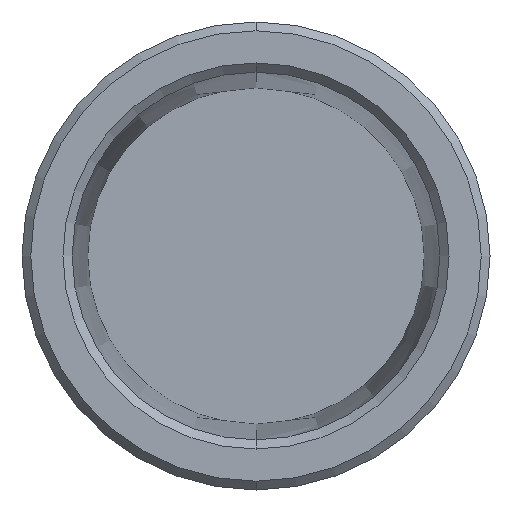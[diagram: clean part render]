
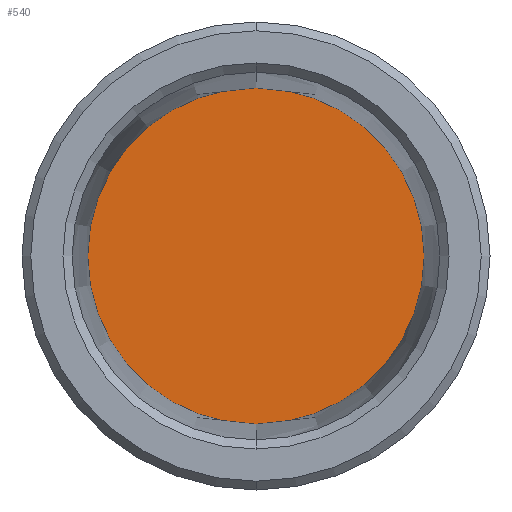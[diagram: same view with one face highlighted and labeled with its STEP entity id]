
A CAD part, front view. The second image highlights one B-rep face of the part: STEP entity #540.
In plain terms, the highlighted planar face has unit normal (0, -1, 0).
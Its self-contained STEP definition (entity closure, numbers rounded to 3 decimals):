
#49 = ORIENTED_EDGE ( 'NONE', *, *, #133, .T. ) ;
#53 = AXIS2_PLACEMENT_3D ( 'NONE', #591, #703, #304 ) ;
#85 = CARTESIAN_POINT ( 'NONE',  ( 0., 11., -5.75 ) ) ;
#133 = EDGE_CURVE ( 'NONE', #588, #604, #574, .T. ) ;
#149 = AXIS2_PLACEMENT_3D ( 'NONE', #681, #331, #335 ) ;
#175 = EDGE_CURVE ( 'NONE', #604, #588, #451, .T. ) ;
#215 = DIRECTION ( 'NONE',  ( 0., -1., 0. ) ) ;
#258 = CARTESIAN_POINT ( 'NONE',  ( 0., 11., 5.75 ) ) ;
#304 = DIRECTION ( 'NONE',  ( 0., 0., -1. ) ) ;
#331 = DIRECTION ( 'NONE',  ( 0., -1., 0. ) ) ;
#335 = DIRECTION ( 'NONE',  ( 0., 0., -1. ) ) ;
#361 = PLANE ( 'NONE',  #53 ) ;
#386 = DIRECTION ( 'NONE',  ( 0., 0., -1. ) ) ;
#451 = CIRCLE ( 'NONE', #149, 5.75 ) ;
#505 = EDGE_LOOP ( 'NONE', ( #676, #49 ) ) ;
#527 = FACE_OUTER_BOUND ( 'NONE', #505, .T. ) ;
#540 = ADVANCED_FACE ( 'NONE', ( #527 ), #361, .T. ) ;
#558 = CARTESIAN_POINT ( 'NONE',  ( 0., 11., 0. ) ) ;
#574 = CIRCLE ( 'NONE', #596, 5.75 ) ;
#588 = VERTEX_POINT ( 'NONE', #258 ) ;
#591 = CARTESIAN_POINT ( 'NONE',  ( 0., 11., 0. ) ) ;
#596 = AXIS2_PLACEMENT_3D ( 'NONE', #558, #215, #386 ) ;
#604 = VERTEX_POINT ( 'NONE', #85 ) ;
#676 = ORIENTED_EDGE ( 'NONE', *, *, #175, .T. ) ;
#681 = CARTESIAN_POINT ( 'NONE',  ( 0., 11., 0. ) ) ;
#703 = DIRECTION ( 'NONE',  ( 0., -1., 0. ) ) ;
